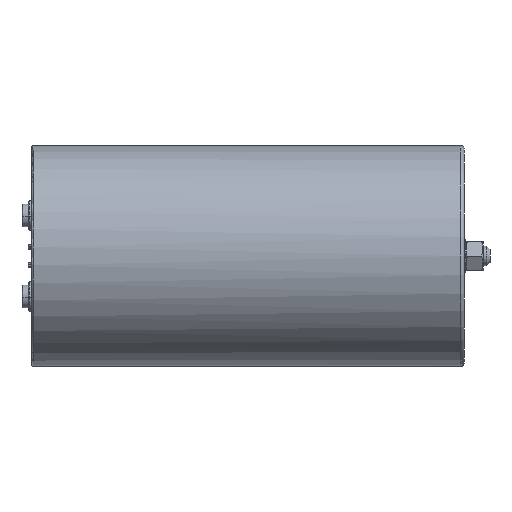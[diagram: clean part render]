
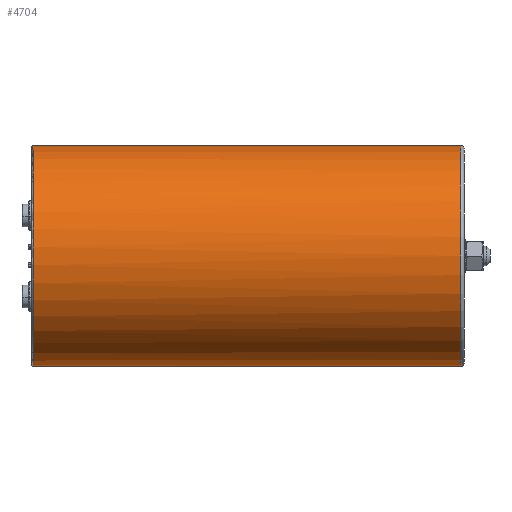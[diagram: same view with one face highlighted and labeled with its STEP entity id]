
A CAD part, left-side view. The second image highlights one B-rep face of the part: STEP entity #4704.
In plain terms, the highlighted cylindrical face has radius 68 mm (diameter 136 mm), a partial arc.
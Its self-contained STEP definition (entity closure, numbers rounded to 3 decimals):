
#240 = CARTESIAN_POINT ( 'NONE',  ( 0., 265., -68. ) ) ;
#398 = VECTOR ( 'NONE', #6643, 1000. ) ;
#536 = VECTOR ( 'NONE', #3613, 1000. ) ;
#567 = DIRECTION ( 'NONE',  ( 0., -1., 0. ) ) ;
#981 = EDGE_CURVE ( 'NONE', #4068, #7204, #6267, .T. ) ;
#992 = CIRCLE ( 'NONE', #2774, 68. ) ;
#1016 = ORIENTED_EDGE ( 'NONE', *, *, #1384, .T. ) ;
#1379 = CARTESIAN_POINT ( 'NONE',  ( 0., 265., 0. ) ) ;
#1384 = EDGE_CURVE ( 'NONE', #1588, #4068, #992, .T. ) ;
#1417 = ORIENTED_EDGE ( 'NONE', *, *, #2213, .T. ) ;
#1533 = DIRECTION ( 'NONE',  ( 0., -1., 0. ) ) ;
#1557 = EDGE_CURVE ( 'NONE', #1588, #6923, #5596, .T. ) ;
#1588 = VERTEX_POINT ( 'NONE', #6271 ) ;
#1689 = ORIENTED_EDGE ( 'NONE', *, *, #3934, .T. ) ;
#1889 = AXIS2_PLACEMENT_3D ( 'NONE', #6053, #1533, #2399 ) ;
#1924 = ORIENTED_EDGE ( 'NONE', *, *, #1557, .F. ) ;
#2211 = DIRECTION ( 'NONE',  ( 0., 0., -1. ) ) ;
#2213 = EDGE_CURVE ( 'NONE', #3908, #6923, #4187, .T. ) ;
#2399 = DIRECTION ( 'NONE',  ( -0.737, 0., 0.676 ) ) ;
#2641 = DIRECTION ( 'NONE',  ( 0., -1., 0. ) ) ;
#2674 = AXIS2_PLACEMENT_3D ( 'NONE', #7287, #567, #2211 ) ;
#2763 = FACE_OUTER_BOUND ( 'NONE', #3416, .T. ) ;
#2774 = AXIS2_PLACEMENT_3D ( 'NONE', #1379, #2641, #6500 ) ;
#2794 = CARTESIAN_POINT ( 'NONE',  ( 0., 0., 68. ) ) ;
#3416 = EDGE_LOOP ( 'NONE', ( #1924, #1016, #3917, #1689, #1417 ) ) ;
#3613 = DIRECTION ( 'NONE',  ( 0., -1., 0. ) ) ;
#3908 = VERTEX_POINT ( 'NONE', #5711 ) ;
#3917 = ORIENTED_EDGE ( 'NONE', *, *, #981, .T. ) ;
#3934 = EDGE_CURVE ( 'NONE', #7204, #3908, #4809, .T. ) ;
#4068 = VERTEX_POINT ( 'NONE', #4553 ) ;
#4187 = CIRCLE ( 'NONE', #5128, 68. ) ;
#4553 = CARTESIAN_POINT ( 'NONE',  ( -50.101, 265., 45.977 ) ) ;
#4704 = ADVANCED_FACE ( 'NONE', ( #2763 ), #5026, .T. ) ;
#4735 = CARTESIAN_POINT ( 'NONE',  ( 0., 0., -68. ) ) ;
#4809 = LINE ( 'NONE', #4735, #536 ) ;
#5026 = CYLINDRICAL_SURFACE ( 'NONE', #2674, 68. ) ;
#5128 = AXIS2_PLACEMENT_3D ( 'NONE', #6108, #7191, #6593 ) ;
#5349 = CARTESIAN_POINT ( 'NONE',  ( 0., 2., 68. ) ) ;
#5596 = LINE ( 'NONE', #2794, #398 ) ;
#5711 = CARTESIAN_POINT ( 'NONE',  ( 0., 2., -68. ) ) ;
#6053 = CARTESIAN_POINT ( 'NONE',  ( 0., 265., 0. ) ) ;
#6108 = CARTESIAN_POINT ( 'NONE',  ( 0., 2., 0. ) ) ;
#6267 = CIRCLE ( 'NONE', #1889, 68. ) ;
#6271 = CARTESIAN_POINT ( 'NONE',  ( 0., 265., 68. ) ) ;
#6500 = DIRECTION ( 'NONE',  ( -0.737, 0., 0.676 ) ) ;
#6593 = DIRECTION ( 'NONE',  ( 0., 0., -1. ) ) ;
#6643 = DIRECTION ( 'NONE',  ( 0., -1., 0. ) ) ;
#6923 = VERTEX_POINT ( 'NONE', #5349 ) ;
#7191 = DIRECTION ( 'NONE',  ( 0., 1., 0. ) ) ;
#7204 = VERTEX_POINT ( 'NONE', #240 ) ;
#7287 = CARTESIAN_POINT ( 'NONE',  ( 0., 0., 0. ) ) ;
